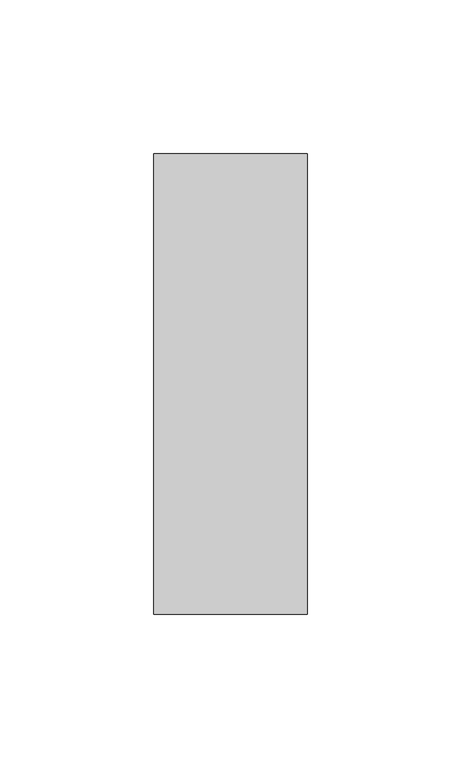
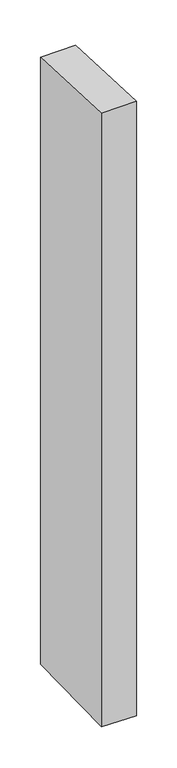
"""IFC4 building model written with IfcOpenShell, lengths in millimetres: member geometry, Прямоугольный импост : 50 x 150 мм."""

import ifcopenshell
import ifcopenshell.guid

model = None  # the IFC model being written
_history = None  # IfcOwnerHistory: only IFC2X3 demands one
_inside = {}  # id of a spatial element -> (the spatial element, [elements in it])
_under = {}  # id of a project, library or spatial element -> (it, [spatial elements below it])
_declared = {}  # id of a project -> (the project, [libraries it declares])
_typed = {}  # id of a type object -> (the type object, [elements of that type])
_made_of = {}  # id of a material, layer set ... -> (it, [elements and type objects made of it])


def new_model(schema):
    """Start an empty IFC model of exactly this schema.

    Asked for "IFC4X3", IfcOpenShell would pick the latest addendum, in which some entities
    have other attributes; the version numbers below select the first issue.
    IFC2X3 requires an IfcOwnerHistory on every rooted entity: one is made here for all.
    """
    global model, _history
    if schema == "IFC4X3":
        model = ifcopenshell.file(schema_version=(4, 3, 0, 0))
    else:
        model = ifcopenshell.file(schema=schema)
    _inside.clear()
    _under.clear()
    _declared.clear()
    _typed.clear()
    _made_of.clear()
    _history = None
    if model.schema == "IFC2X3":
        org = make("IfcOrganization", Name="unknown")
        user = make(
            "IfcPersonAndOrganization",
            ThePerson=make("IfcPerson", FamilyName="unknown"),
            TheOrganization=org,
        )
        app = make(
            "IfcApplication",
            ApplicationDeveloper=org,
            Version="unknown",
            ApplicationFullName="unknown",
            ApplicationIdentifier="unknown",
        )
        _history = make(
            "IfcOwnerHistory",
            OwningUser=user,
            OwningApplication=app,
            ChangeAction="ADDED",
            CreationDate=0,
        )
    return model


def make(cls, **values):
    """One entity of the class cls with the attributes given. An attribute that is None is left unset."""
    return model.create_entity(
        cls, **{name: value for name, value in values.items() if value is not None}
    )


def rooted(cls, **values):
    """An entity with a GlobalId (a new one), such as an element, a storey or a relation."""
    return make(cls, GlobalId=ifcopenshell.guid.new(), OwnerHistory=_history, **values)


def si_unit(unit_type, name, prefix=None):
    """IfcSIUnit, for example si_unit("LENGTHUNIT", "METRE", prefix="MILLI")."""
    return make("IfcSIUnit", UnitType=unit_type, Prefix=prefix, Name=name)


def assignment(units):
    """IfcUnitAssignment: the units of a project."""
    return None if units is None else make("IfcUnitAssignment", Units=units)


def point(xyz):
    """IfcCartesianPoint."""
    return None if xyz is None else make("IfcCartesianPoint", Coordinates=xyz)


def direction(xyz):
    """IfcDirection."""
    return None if xyz is None else make("IfcDirection", DirectionRatios=xyz)


def frame(location, z_axis=None, x_axis=None):
    """IfcAxis2Placement3D, a coordinate frame: its origin and axes. An axis left out is left unset."""
    return make(
        "IfcAxis2Placement3D",
        Location=point(location),
        Axis=direction(z_axis),
        RefDirection=direction(x_axis),
    )


def origin():
    """The frame at (0, 0, 0) with its axes left unset."""
    return frame((0.0, 0.0, 0.0))


def place(relative_to, where):
    """IfcLocalPlacement: puts the frame where relative to a parent placement (None: the world)."""
    return make(
        "IfcLocalPlacement", PlacementRelTo=relative_to, RelativePlacement=where
    )


def context(
    kind, dimensions, precision=None, world=None, true_north=None, identifier=None
):
    """IfcGeometricRepresentationContext, for example the 3D "Model" context."""
    return make(
        "IfcGeometricRepresentationContext",
        ContextIdentifier=identifier,
        ContextType=kind,
        CoordinateSpaceDimension=dimensions,
        Precision=precision,
        WorldCoordinateSystem=world,
        TrueNorth=true_north,
    )


def project(units=None, contexts=None):
    """IfcProject with its units and contexts."""
    return rooted(
        "IfcProject",
        Name="project",
        RepresentationContexts=contexts,
        UnitsInContext=assignment(units),
    )


def spatial(cls, under=None, at=None, **own):
    """A site, building, storey or space (cls), placed at a placement, below another one or the project."""
    s = rooted(cls, ObjectPlacement=at, **own)
    if under is not None:
        _under.setdefault(under.id(), (under, []))[1].append(s)
    return s


def faces_of(points, faces, orient=None, outer=None):
    """IfcFace entities. A face is a list of loops; a loop is a list of indices into points, from 0.

    orient and outer hold one flag for each loop. By default every Orientation is true, the
    first loop of a face is its IfcFaceOuterBound and the others are IfcFaceBound.
    """
    made = []
    for i, loops in enumerate(faces):
        bounds = []
        for j, loop in enumerate(loops):
            is_outer = j == 0 if outer is None else outer[i][j]
            bounds.append(
                make(
                    "IfcFaceOuterBound" if is_outer else "IfcFaceBound",
                    Bound=make("IfcPolyLoop", Polygon=[points[k] for k in loop]),
                    Orientation=True if orient is None else orient[i][j],
                )
            )
        made.append(make("IfcFace", Bounds=bounds))
    return made


def faceted_brep(points, faces, orient=None, outer=None, voids=None):
    """IfcFacetedBrep: a solid bounded by flat faces; with voids (closed shells), ...WithVoids."""
    shared = [point(p) for p in points]
    hull = make("IfcClosedShell", CfsFaces=faces_of(shared, faces, orient, outer))
    if voids is None:
        return make("IfcFacetedBrep", Outer=hull)
    return make(
        "IfcFacetedBrepWithVoids",
        Outer=hull,
        Voids=[
            make(cls, CfsFaces=faces_of(shared, fs, o, b)) for cls, fs, o, b in voids
        ],
    )


def shape(context_of_items, identifier, shape_type, items):
    """IfcShapeRepresentation: the items that make up one representation, for example the "Body"."""
    return make(
        "IfcShapeRepresentation",
        ContextOfItems=context_of_items,
        RepresentationIdentifier=identifier,
        RepresentationType=shape_type,
        Items=items,
    )


def source(mapping_origin, context_of_items, identifier, shape_type, items):
    """IfcRepresentationMap: a shape defined once, which mapped items show again and again."""
    return make(
        "IfcRepresentationMap",
        MappingOrigin=mapping_origin,
        MappedRepresentation=shape(context_of_items, identifier, shape_type, items),
    )


def transform(
    local_origin,
    x_axis=None,
    y_axis=None,
    z_axis=None,
    scale=None,
    scale2=None,
    scale3=None,
    uniform=True,
):
    """IfcCartesianTransformationOperator3D, or its non-uniform kind. x_axis, y_axis, z_axis: its Axis1, 2, 3."""
    if uniform:
        return make(
            "IfcCartesianTransformationOperator3D",
            Axis1=direction(x_axis),
            Axis2=direction(y_axis),
            LocalOrigin=point(local_origin),
            Scale=scale,
            Axis3=direction(z_axis),
        )
    return make(
        "IfcCartesianTransformationOperator3DnonUniform",
        Axis1=direction(x_axis),
        Axis2=direction(y_axis),
        LocalOrigin=point(local_origin),
        Scale=scale,
        Axis3=direction(z_axis),
        Scale2=scale2,
        Scale3=scale3,
    )


def mapped(mapping_source, mapping_target):
    """IfcMappedItem: shows the shape of a source again, moved by a transform."""
    return make(
        "IfcMappedItem", MappingSource=mapping_source, MappingTarget=mapping_target
    )


def made_of(thing, what):
    """Note that an element or type object is made of a material, layer set ...; save() writes the relation."""
    if what is not None:
        _made_of.setdefault(what.id(), (what, []))[1].append(thing)
    return thing


def element(
    cls,
    number,
    at=None,
    inside=None,
    cuts=None,
    type_object=None,
    material=None,
    context=None,
    identifier="Body",
    shape_type=None,
    held_by="IfcProductDefinitionShape",
    body=None,
    shapes=None,
    **own,
):
    """One element of the class cls, such as IfcWall. Its Tag is "e" and its number.

    at: its placement. inside: the storey or other place that contains it. cuts: it is an
    opening in that element (IfcRelVoidsElement). A single representation is given by context,
    identifier, shape_type and body (its items); several are given by shapes. held_by: the class
    of the entity that holds the representations. save() writes the other relations.
    """
    e = rooted(cls, Tag="e%d" % number, ObjectPlacement=at, **own)
    if body is not None:
        shapes = [shape(context, identifier, shape_type, body)]
    if shapes is not None:
        e.Representation = make(held_by, Representations=shapes)
    if inside is not None:
        _inside.setdefault(inside.id(), (inside, []))[1].append(e)
    if cuts is not None:
        rooted(
            "IfcRelVoidsElement", RelatingBuildingElement=cuts, RelatedOpeningElement=e
        )
    if type_object is not None:
        _typed.setdefault(type_object.id(), (type_object, []))[1].append(e)
    return made_of(e, material)


def aggregate(whole, parts):
    """IfcRelAggregates: a whole, such as a stair, and the parts it consists of."""
    return rooted("IfcRelAggregates", RelatingObject=whole, RelatedObjects=parts)


def save(model, path):
    """Write the relations noted so far, then the file.

    IfcRelAggregates (storeys below a building ...), IfcRelContainedInSpatialStructure (elements
    in a storey), IfcRelDefinesByType, IfcRelAssociatesMaterial and IfcRelDeclares: one each for
    every whole, place, type object, material and project.
    """
    for whole, parts in _under.values():
        aggregate(whole, parts)
    for where, things in _inside.values():
        rooted(
            "IfcRelContainedInSpatialStructure",
            RelatedElements=things,
            RelatingStructure=where,
        )
    for kind, things in _typed.values():
        rooted("IfcRelDefinesByType", RelatedObjects=things, RelatingType=kind)
    for what, things in _made_of.values():
        rooted("IfcRelAssociatesMaterial", RelatedObjects=things, RelatingMaterial=what)
    for by, libraries in _declared.values():
        rooted("IfcRelDeclares", RelatingContext=by, RelatedDefinitions=libraries)
    model.write(path)


def member_9b30285c(model_context):
    return source(origin(), model_context, "Body", "Brep", [
        faceted_brep([(-25.0, 75.0, -3.6767275), (25.0, 75.0, -3.1840708), (25.0, 75.0, -915.7023592), (-25.0, 75.0, -915.168124), (-25.0, -75.0, 3.1840708), (-25.0, -75.0, -918.4943362), (25.0, -75.0, 3.6767275), (25.0, -75.0, -919.0285714)], [[[0, 1, 2, 3]], [[4, 0, 3, 5]], [[6, 4, 5, 7]], [[1, 6, 7, 2]], [[1, 0, 4, 6]], [[2, 7, 5, 3]]]),
    ])


if __name__ == "__main__":
    model = new_model("IFC4")
    model_context = context("Model", 3, world=origin())
    ifc_project = project(units=[si_unit("LENGTHUNIT", "METRE", prefix="MILLI")], contexts=[model_context])
    site = spatial("IfcSite", under=ifc_project)
    building = spatial("IfcBuilding", under=site)
    placement = place(None, origin())
    member_shape = member_9b30285c(model_context)
    element("IfcMember", 1, ObjectType="Прямоугольный импост : 50 x 150 мм", at=placement, inside=building, context=model_context, shape_type="MappedRepresentation", body=[
        mapped(member_shape, transform((0.0, 0.0, 0.0), x_axis=(1.0, 0.0, 0.0), y_axis=(0.0, 1.0, 0.0), z_axis=(0.0, 0.0, 1.0))),
    ])
    save(model, "model.ifc")
